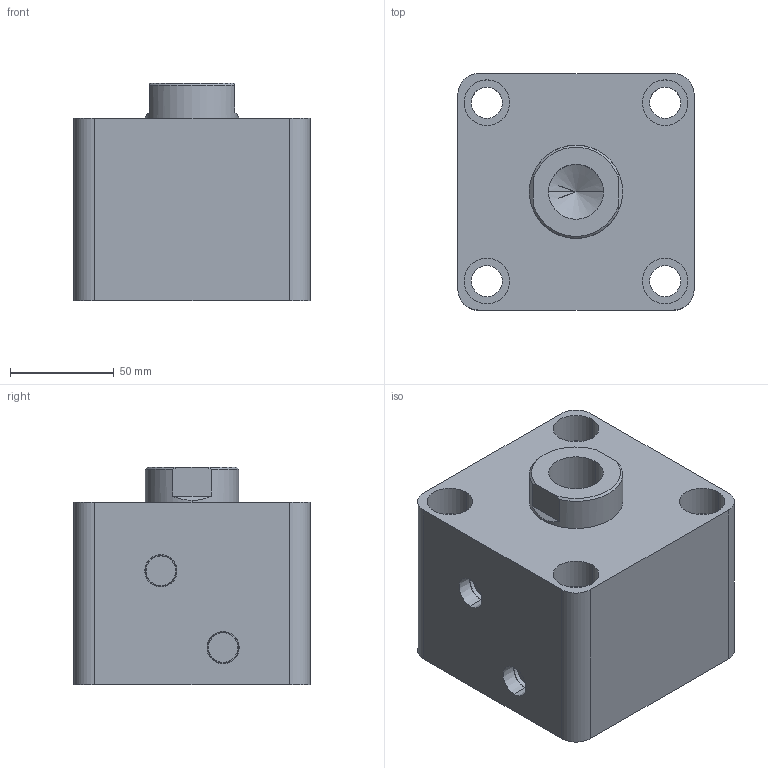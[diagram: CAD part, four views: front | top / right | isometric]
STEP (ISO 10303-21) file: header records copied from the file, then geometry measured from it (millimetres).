
FILE_DESCRIPTION (( 'STEP AP203' ), '1' );
FILE_NAME ('HTB-SD80-10N.STEP', '2019-10-07T08:12:53', ( '微软用户' ), ( '微软中国' ), 'SwSTEP 2.0', 'SolidWorks 2012', '' );
FILE_SCHEMA (( 'CONFIG_CONTROL_DESIGN' ));
Length unit declared in the file: millimetre
Products named in the file (3): HTB-SD80-10N; HTB-SD80-10N活塞杆; HTB-SD80-10掛极
Assembly tree (2 placements, depth 2):
  HTB-SD80-10N
    HTB-SD80-10掛极
    HTB-SD80-10N活塞杆
Bounding box: 114 x 114 x 105 mm (x, y, z)
Volume: 1016883.4 mm3; surface area: 133742.2 mm2
Topology: 2 solids, 2 shells, 83 faces, 184 edges, 119 vertices
Faces by surface type: cylinder 42, plane 27, cone 8, torus 6
Entity records: 2655 total; most frequent: DIRECTION 456, CARTESIAN_POINT 417, ORIENTED_EDGE 364, AXIS2_PLACEMENT_3D 194, EDGE_CURVE 182, VERTEX_POINT 119, EDGE_LOOP 107, CIRCLE 106
